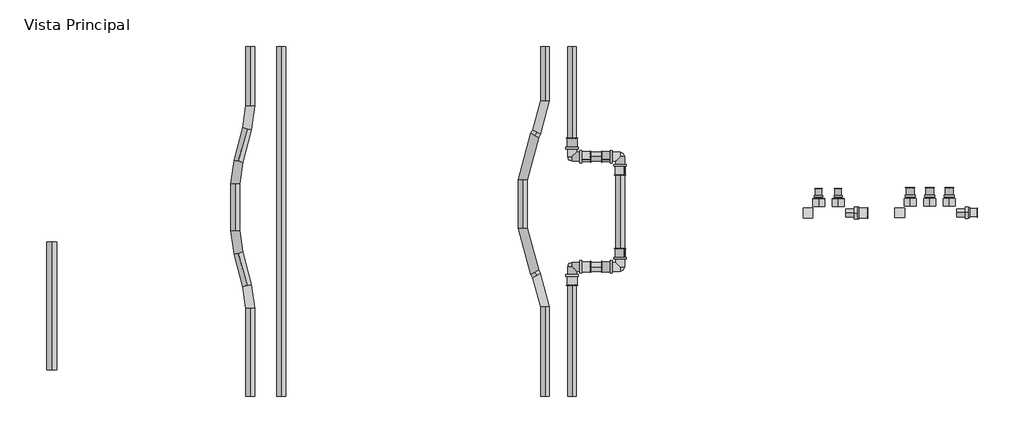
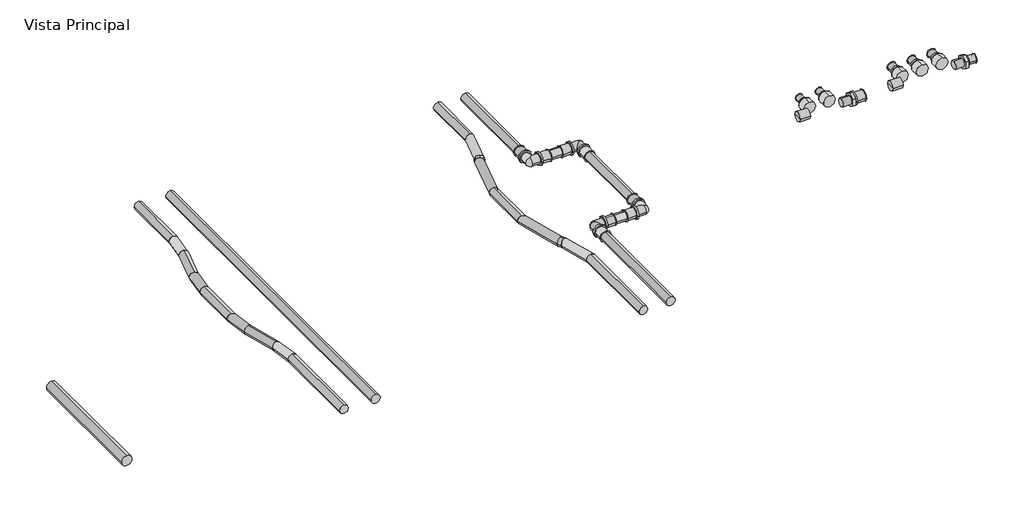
# One storey, incomplete: 36 pipe fittings, 17 pipe segments.
"""IFC4 building model written with IfcOpenShell, lengths in millimetres."""

from ifc_helpers import new_model, si_unit, point, frame, frame_2d, origin, place, context, project, spatial, circle_curve, trimmed, segment, composite_curve, outline, extrude, transform, mapped, element, save
from components import pipe_fitting_0048f4e8, k5_579bd2f6, pipe_fitting_518063be, pipe_fitting_5590baf3, pipe_fitting_c3ecb90c, azul_4665513f, rojo_d383c2d2, rojo_f0028795, var_25c4f382, var_874b99da, var_47cb32f1, var_bb96817c

model = new_model("IFC4")

# Units and contexts
model_context = context("Model", 3, world=origin())
ifc_project = project(units=[si_unit("LENGTHUNIT", "METRE", prefix="MILLI")], contexts=[model_context])

# Site, building, storey
site = spatial("IfcSite", under=ifc_project)
building = spatial("IfcBuilding", under=site)
storey = spatial("IfcBuildingStorey", under=building, Name="Vista Principal", Elevation=0.0)

# Pipe fittings
placement = place(None, origin())
pipe_fitting_shape = pipe_fitting_0048f4e8(model_context)
element("IfcPipeFitting", 1, ObjectType="AmancoWavin_Unionesdetubería_TigrisFlexZNoUsarCampana : Tigris K5", at=placement, inside=storey, context=model_context, shape_type="MappedRepresentation", body=[
    mapped(pipe_fitting_shape, transform((2938.024619, 1004.6157912, 0.0), x_axis=(0.0, -1.0, 0.0), y_axis=(1.0, 0.0, 0.0), z_axis=(0.0, 0.0, 1.0))),
])
element("IfcPipeFitting", 2, ObjectType="AmancoWavin_Unionesdetubería_TigrisFlexZNoUsarCampana : Tigris K5", at=placement, inside=storey, context=model_context, shape_type="MappedRepresentation", body=[
    mapped(pipe_fitting_shape, transform((2993.024619, 1004.6157912, 0.0), x_axis=(0.0, -1.0, 0.0), y_axis=(1.0, 0.0, 0.0), z_axis=(0.0, 0.0, 1.0))),
])
element("IfcPipeFitting", 3, ObjectType="AmancoWavin_Unionesdetubería_TigrisFlexZNoUsarCampana : Tigris K5", at=placement, inside=storey, context=model_context, shape_type="MappedRepresentation", body=[
    mapped(pipe_fitting_shape, transform((3048.024619, 1004.6157912, 0.0), x_axis=(0.0, -1.0, 0.0), y_axis=(1.0, 0.0, 0.0), z_axis=(0.0, 0.0, 1.0))),
])
element("IfcPipeFitting", 4, ObjectType="AmancoWavin_Unionesdetubería_TigrisFlexZNoUsarCampana : Tigris K5", at=placement, inside=storey, context=model_context, shape_type="MappedRepresentation", body=[
    mapped(pipe_fitting_shape, transform((3101.324619, 960.2157912, 0.0), x_axis=(-1.0, 0.0, 0.0), y_axis=(0.0, -1.0, 0.0), z_axis=(0.0, 0.0, 1.0))),
])
k5_shape = k5_579bd2f6(model_context)
element("IfcPipeFitting", 5, ObjectType="AmancoWavin_Unionesdetubería_TigrisFlexZNoUsarCampana : Tigris K5", at=placement, inside=storey, context=model_context, shape_type="MappedRepresentation", body=[
    mapped(k5_shape, transform((2788.8239674, 959.4178681, 0.0), x_axis=(-1.0, 0.0, 0.0), y_axis=(0.0, -1.0, 0.0), z_axis=(0.0, 0.0, 1.0))),
])
pipe_fitting_2_shape = pipe_fitting_518063be(model_context)
element("IfcPipeFitting", 6, ObjectType="AmancoWavin_Unionesdetubería_TigrisFlexZNoUsarConectorRosHembraManifold : Tigris K5", at=placement, inside=storey, context=model_context, shape_type="MappedRepresentation", body=[
    mapped(pipe_fitting_2_shape, transform((2680.5239674, 1001.3178681, 0.0), x_axis=(0.0, 1.0, 0.0), y_axis=(-1.0, 0.0, 0.0), z_axis=(0.0, 0.0, 1.0))),
])
element("IfcPipeFitting", 7, ObjectType="AmancoWavin_Unionesdetubería_TigrisFlexZNoUsarConectorRosHembraManifold : Tigris K5", at=placement, inside=storey, context=model_context, shape_type="MappedRepresentation", body=[
    mapped(pipe_fitting_2_shape, transform((2735.5239674, 1001.3178681, 0.0), x_axis=(0.0, 1.0, 0.0), y_axis=(-1.0, 0.0, 0.0), z_axis=(0.0, 0.0, 1.0))),
])
pipe_fitting_3_shape = pipe_fitting_5590baf3(model_context)
element("IfcPipeFitting", 8, ObjectType="AmancoWavin_Unionesdetubería_TigrisFlexZNoUsarConectorRosHembraManifold : Tigris K5", at=placement, inside=storey, context=model_context, shape_type="MappedRepresentation", body=[
    mapped(pipe_fitting_3_shape, transform((2938.024619, 1002.1157912, 0.0), x_axis=(0.0, 1.0, 0.0), y_axis=(-1.0, 0.0, 0.0), z_axis=(0.0, 0.0, 1.0))),
])
element("IfcPipeFitting", 9, ObjectType="AmancoWavin_Unionesdetubería_TigrisFlexZNoUsarConectorRosHembraManifold : Tigris K5", at=placement, inside=storey, context=model_context, shape_type="MappedRepresentation", body=[
    mapped(pipe_fitting_3_shape, transform((2993.024619, 1002.1157912, 0.0), x_axis=(0.0, 1.0, 0.0), y_axis=(-1.0, 0.0, 0.0), z_axis=(0.0, 0.0, 1.0))),
])
element("IfcPipeFitting", 10, ObjectType="AmancoWavin_Unionesdetubería_TigrisFlexZNoUsarConectorRosHembraManifold : Tigris K5", at=placement, inside=storey, context=model_context, shape_type="MappedRepresentation", body=[
    mapped(pipe_fitting_3_shape, transform((3048.024619, 1002.1157912, 0.0), x_axis=(0.0, 1.0, 0.0), y_axis=(-1.0, 0.0, 0.0), z_axis=(0.0, 0.0, 1.0))),
])
pipe_fitting_4_shape = pipe_fitting_c3ecb90c(model_context)
element("IfcPipeFitting", 11, ObjectType="AmancoWavin_Unionesdetubería_TigrisFlexZNoUsarCampana : Tigris K5", at=placement, inside=storey, context=model_context, shape_type="MappedRepresentation", body=[
    mapped(pipe_fitting_4_shape, transform((2680.5239674, 1003.8178681, 0.0), x_axis=(0.0, -1.0, 0.0), y_axis=(1.0, 0.0, 0.0), z_axis=(0.0, 0.0, 1.0))),
])
element("IfcPipeFitting", 12, ObjectType="AmancoWavin_Unionesdetubería_TigrisFlexZNoUsarCampana : Tigris K5", at=placement, inside=storey, context=model_context, shape_type="MappedRepresentation", body=[
    mapped(pipe_fitting_4_shape, transform((2735.5239674, 1003.8178681, 0.0), x_axis=(0.0, -1.0, 0.0), y_axis=(1.0, 0.0, 0.0), z_axis=(0.0, 0.0, 1.0))),
])
azul_shape = azul_4665513f(model_context)
element("IfcPipeFitting", 13, ObjectType="AmancoWavin_UnionesdeTubería_TigrisFlexTuberíaFlexible : Azul", at=placement, inside=storey, context=model_context, shape_type="MappedRepresentation", body=[
    mapped(azul_shape, transform((1082.9960417, 1228.0038708, 0.0), x_axis=(0.2588190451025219, 0.965925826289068, 0.0), y_axis=(-0.965925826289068, 0.2588190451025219, 0.0), z_axis=(0.0, 0.0, 1.0))),
])
element("IfcPipeFitting", 14, ObjectType="AmancoWavin_UnionesdeTubería_TigrisFlexTuberíaFlexible : Azul", at=placement, inside=storey, context=model_context, shape_type="MappedRepresentation", body=[
    mapped(azul_shape, transform((1041.5849945, 1073.4557386, 0.0), x_axis=(-0.25881904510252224, -0.965925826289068, 0.0), y_axis=(0.965925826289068, -0.25881904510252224, 0.0), z_axis=(0.0, 0.0, 1.0))),
])
element("IfcPipeFitting", 15, ObjectType="AmancoWavin_UnionesdeTubería_TigrisFlexTuberíaFlexible : Azul", at=placement, inside=storey, context=model_context, shape_type="MappedRepresentation", body=[
    mapped(azul_shape, transform((1041.5849945, 877.9987022, 0.0), x_axis=(0.0, -1.0, 0.0), y_axis=(1.0, 0.0, 0.0), z_axis=(0.0, 0.0, 1.0))),
])
element("IfcPipeFitting", 16, ObjectType="AmancoWavin_UnionesdeTubería_TigrisFlexTuberíaFlexible : Azul", at=placement, inside=storey, context=model_context, shape_type="MappedRepresentation", body=[
    mapped(azul_shape, transform((1082.9960417, 723.45057, 0.0), x_axis=(0.0, 1.0, 0.0), y_axis=(-1.0, 0.0, 0.0), z_axis=(0.0, 0.0, 1.0))),
])
element("IfcPipeFitting", 17, ObjectType="AmancoWavin_Unionesdetubería_TigrisFlexZNoUsarCampana : K5", at=placement, inside=storey, context=model_context, shape_type="MappedRepresentation", body=[
    mapped(k5_shape, transform((1987.7558771, 1140.0038708, 0.0), x_axis=(0.0, -1.0, 0.0), y_axis=(1.0, 0.0, 0.0), z_axis=(0.0, 0.0, 1.0))),
])
element("IfcPipeFitting", 18, ObjectType="AmancoWavin_Unionesdetubería_TigrisFlexZNoUsarCampana : K5", at=placement, inside=storey, context=model_context, shape_type="MappedRepresentation", body=[
    mapped(k5_shape, transform((2009.7558771, 1118.0038708, 0.0), x_axis=(-1.0, 0.0, 0.0), y_axis=(0.0, -1.0, 0.0), z_axis=(0.0, 0.0, 1.0))),
])
element("IfcPipeFitting", 19, ObjectType="AmancoWavin_Unionesdetubería_TigrisFlexZNoUsarCampana : K5", at=placement, inside=storey, context=model_context, shape_type="MappedRepresentation", body=[
    mapped(k5_shape, transform((2122.7558771, 1096.0038708, 0.0), x_axis=(0.0, 1.0, 0.0), y_axis=(-1.0, 0.0, 0.0), z_axis=(0.0, 0.0, 1.0))),
])
element("IfcPipeFitting", 20, ObjectType="AmancoWavin_Unionesdetubería_TigrisFlexZNoUsarCampana : K5", at=placement, inside=storey, context=model_context, shape_type="MappedRepresentation", body=[
    mapped(k5_shape, transform((2100.7558771, 1118.0038708, 0.0), x_axis=(1.0, 0.0, 0.0), y_axis=(0.0, 1.0, 0.0), z_axis=(0.0, 0.0, 1.0))),
])
element("IfcPipeFitting", 21, ObjectType="AmancoWavin_Unionesdetubería_TigrisFlexZNoUsarCampana : K5", at=placement, inside=storey, context=model_context, shape_type="MappedRepresentation", body=[
    mapped(k5_shape, transform((2100.7558771, 808.0038708, 0.0), x_axis=(1.0, 0.0, 0.0), y_axis=(0.0, 1.0, 0.0), z_axis=(0.0, 0.0, 1.0))),
])
element("IfcPipeFitting", 22, ObjectType="AmancoWavin_Unionesdetubería_TigrisFlexZNoUsarCampana : K5", at=placement, inside=storey, context=model_context, shape_type="MappedRepresentation", body=[
    mapped(k5_shape, transform((2122.7558771, 830.0038708, 0.0), x_axis=(0.0, -1.0, 0.0), y_axis=(1.0, 0.0, 0.0), z_axis=(0.0, 0.0, 1.0))),
])
element("IfcPipeFitting", 23, ObjectType="AmancoWavin_Unionesdetubería_TigrisFlexZNoUsarCampana : K5", at=placement, inside=storey, context=model_context, shape_type="MappedRepresentation", body=[
    mapped(k5_shape, transform((2009.7558771, 808.0038708, 0.0), x_axis=(-1.0, 0.0, 0.0), y_axis=(0.0, -1.0, 0.0), z_axis=(0.0, 0.0, 1.0))),
])
element("IfcPipeFitting", 24, ObjectType="AmancoWavin_Unionesdetubería_TigrisFlexZNoUsarCampana : K5", at=placement, inside=storey, context=model_context, shape_type="MappedRepresentation", body=[
    mapped(k5_shape, transform((1987.7558771, 786.0038708, 0.0), x_axis=(0.0, 1.0, 0.0), y_axis=(-1.0, 0.0, 0.0), z_axis=(0.0, 0.0, 1.0))),
])
rojo_shape = rojo_d383c2d2(model_context)
element("IfcPipeFitting", 25, ObjectType="AmancoWavin_UnionesdeTubería_TigrisFlexTuberíaFlexible : Rojo", at=placement, inside=storey, context=model_context, shape_type="MappedRepresentation", body=[
    mapped(rojo_shape, transform((1849.3324376, 850.468663, 0.0), x_axis=(0.0, -1.0, 0.0), y_axis=(1.0, 0.0, 0.0), z_axis=(0.0, 0.0, 1.0))),
])
element("IfcPipeFitting", 26, ObjectType="AmancoWavin_UnionesdeTubería_TigrisFlexTuberíaFlexible : Rojo", at=placement, inside=storey, context=model_context, shape_type="MappedRepresentation", body=[
    mapped(rojo_shape, transform((1849.3324376, 1119.7506953, 0.0), x_axis=(-0.4999999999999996, -0.8660254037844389, 0.0), y_axis=(0.8660254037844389, -0.4999999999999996, 0.0), z_axis=(0.0, 0.0, 1.0))),
])
rojo_2_shape = rojo_f0028795(model_context)
element("IfcPipeFitting", 27, ObjectType="AmancoWavin_UnionesdeTubería_TigrisFlexTuberíaFlexible : Rojo", at=placement, inside=storey, context=model_context, shape_type="MappedRepresentation", body=[
    mapped(rojo_2_shape, transform((1911.8324376, 742.2154876, 0.0), x_axis=(0.0, 1.0, 0.0), y_axis=(-1.0, 0.0, 0.0), z_axis=(0.0, 0.0, 1.0))),
])
element("IfcPipeFitting", 28, ObjectType="AmancoWavin_UnionesdeTubería_TigrisFlexTuberíaFlexible : Rojo", at=placement, inside=storey, context=model_context, shape_type="MappedRepresentation", body=[
    mapped(rojo_2_shape, transform((1911.8324376, 1228.0038708, 0.0), x_axis=(0.49999999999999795, 0.8660254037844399, 0.0), y_axis=(-0.8660254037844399, 0.49999999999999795, 0.0), z_axis=(0.0, 0.0, 1.0))),
])
var_shape = var_25c4f382(model_context)
element("IfcPipeFitting", 29, ObjectType="AmancoWavin_Unionesdetubería_TigrisFlexZNoUsarTapaHembraManifold : Var.", at=placement, inside=storey, context=model_context, shape_type="MappedRepresentation", body=[
    mapped(var_shape, transform((2644.5239674, 959.4178681, 0.0), x_axis=(-1.0, 0.0, 0.0), y_axis=(0.0, -1.0, 0.0), z_axis=(0.0, 0.0, 1.0))),
])
element("IfcPipeFitting", 30, ObjectType="AmancoWavin_Unionesdetubería_TigrisFlexZNoUsarTapaHembraManifold : Var.", at=placement, inside=storey, context=model_context, shape_type="MappedRepresentation", body=[
    mapped(var_shape, transform((2902.024619, 960.2157912, 0.0), x_axis=(-1.0, 0.0, 0.0), y_axis=(0.0, -1.0, 0.0), z_axis=(0.0, 0.0, 1.0))),
])
var_2_shape = var_874b99da(model_context)
element("IfcPipeFitting", 31, ObjectType="AmancoWavin_Unionesdetubería_TigrisFlexZNoUsarRoscaMacho-MachoManifold(nested) : Var.", at=placement, inside=storey, context=model_context, shape_type="MappedRepresentation", body=[
    mapped(var_2_shape, transform((2819.0239674, 959.4178681, 0.0), x_axis=(1.0, 0.0, 0.0), y_axis=(0.0, 1.0, 0.0), z_axis=(0.0, 0.0, 1.0))),
])
var_3_shape = var_47cb32f1(model_context)
element("IfcPipeFitting", 32, ObjectType="AmancoWavin_Unionesdetubería_TigrisFlexZNoUsarRoscaMacho-MachoManifold(nested) : Var.", at=placement, inside=storey, context=model_context, shape_type="MappedRepresentation", body=[
    mapped(var_3_shape, transform((3127.524619, 960.2157912, 0.0), x_axis=(1.0, 0.0, 0.0), y_axis=(0.0, 1.0, 0.0), z_axis=(0.0, 0.0, 1.0))),
])
var_4_shape = var_bb96817c(model_context)
element("IfcPipeFitting", 33, ObjectType="AmancoWavin_Unionesdetubería_TigrisFlexCodo : Var.", at=placement, inside=storey, context=model_context, shape_type="MappedRepresentation", body=[
    mapped(var_4_shape, transform((1987.7558771, 1118.0038708, 0.0), x_axis=(0.0, -1.0, 0.0), y_axis=(1.0, 0.0, 0.0), z_axis=(0.0, 0.0, 1.0))),
])
element("IfcPipeFitting", 34, ObjectType="AmancoWavin_Unionesdetubería_TigrisFlexCodo : Var.", at=placement, inside=storey, context=model_context, shape_type="MappedRepresentation", body=[
    mapped(var_4_shape, transform((2122.7558771, 1118.0038708, 0.0), x_axis=(0.0, 1.0, 0.0), y_axis=(-1.0, 0.0, 0.0), z_axis=(0.0, 0.0, 1.0))),
])
element("IfcPipeFitting", 35, ObjectType="AmancoWavin_Unionesdetubería_TigrisFlexCodo : Var.", at=placement, inside=storey, context=model_context, shape_type="MappedRepresentation", body=[
    mapped(var_4_shape, transform((2122.7558771, 808.0038708, 0.0), x_axis=(1.0, 0.0, 0.0), y_axis=(0.0, 1.0, 0.0), z_axis=(0.0, 0.0, 1.0))),
])
element("IfcPipeFitting", 36, ObjectType="AmancoWavin_Unionesdetubería_TigrisFlexCodo : Var.", at=placement, inside=storey, context=model_context, shape_type="MappedRepresentation", body=[
    mapped(var_4_shape, transform((1987.7558771, 808.0038708, 0.0), x_axis=(-1.0, 0.0, 0.0), y_axis=(0.0, -1.0, 0.0), z_axis=(0.0, 0.0, 1.0))),
])

# Pipe segments
element("IfcPipeSegment", 37, ObjectType="Tubo de Transición Universal", at=placement, inside=storey, context=model_context, shape_type="SweptSolid", body=[
    extrude(outline(composite_curve([segment(trimmed(circle_curve(frame_2d((0.0, 524.9354616)), 14.2875), [point((0.0, 510.6479616))], [point((-14.2875, 524.9354616))], False, "CARTESIAN"), True, "CONTINUOUS"), segment(trimmed(circle_curve(frame_2d((0.0, 524.9354616)), 14.2875), [point((-14.2875, 524.9354616))], [point((0.0, 539.2229616))], False, "CARTESIAN"), True, "CONTINUOUS"), segment(trimmed(circle_curve(frame_2d((0.0, 524.9354616)), 14.2875), [point((0.0, 539.2229616))], [point((14.2875, 524.9354616))], False, "CARTESIAN"), True, "CONTINUOUS"), segment(trimmed(circle_curve(frame_2d((0.0, 524.9354616)), 14.2875), [point((14.2875, 524.9354616))], [point((0.0, 510.6479616))], False, "CARTESIAN"), True, "CONTINUOUS")], self_intersect=False)), frame((0.0, 517.9987022, 0.0), z_axis=(0.0, 1.0, 0.0), x_axis=(0.0, 0.0, 1.0)), (0.0, 0.0, 1.0), 360.0),
])
element("IfcPipeSegment", 38, ObjectType="AmancoWavin_TuberíasFlexibles_TIGRISFLEXAzul 16-32 mm (50 mts-100 mts)", at=placement, inside=storey, context=model_context, shape_type="SweptSolid", body=[
    extrude(outline(composite_curve([segment(trimmed(circle_curve(frame_2d((0.0, 1082.9960417)), 12.5), [point((0.0, 1070.4960417))], [point((-12.5, 1082.9960417))], False, "CARTESIAN"), True, "CONTINUOUS"), segment(trimmed(circle_curve(frame_2d((0.0, 1082.9960417)), 12.5), [point((-12.5, 1082.9960417))], [point((0.0, 1095.4960417))], False, "CARTESIAN"), True, "CONTINUOUS"), segment(trimmed(circle_curve(frame_2d((0.0, 1082.9960417)), 12.5), [point((0.0, 1095.4960417))], [point((12.5, 1082.9960417))], False, "CARTESIAN"), True, "CONTINUOUS"), segment(trimmed(circle_curve(frame_2d((0.0, 1082.9960417)), 12.5), [point((12.5, 1082.9960417))], [point((0.0, 1070.4960417))], False, "CARTESIAN"), True, "CONTINUOUS")], self_intersect=False)), frame((0.0, 1260.9169952, 0.0), z_axis=(0.0, 1.0, 0.0), x_axis=(0.0, 0.0, 1.0)), (0.0, 0.0, 1.0), 167.0868756),
])
element("IfcPipeSegment", 39, ObjectType="AmancoWavin_TuberíasFlexibles_TIGRISFLEXAzul 16-32 mm (50 mts-100 mts)", at=placement, inside=storey, context=model_context, shape_type="SweptSolid", body=[
    extrude(outline(composite_curve([segment(trimmed(circle_curve(frame_2d((0.0, -12.5)), 12.5), [point((-12.5, -12.5))], [point((0.0, 0.0))], False, "CARTESIAN"), True, "CONTINUOUS"), segment(trimmed(circle_curve(frame_2d((0.0, -12.5)), 12.5), [point((0.0, 0.0))], [point((12.5, -12.5))], False, "CARTESIAN"), True, "CONTINUOUS"), segment(trimmed(circle_curve(frame_2d((0.0, -12.5)), 12.5), [point((12.5, -12.5))], [point((0.0, -25.0))], False, "CARTESIAN"), True, "CONTINUOUS"), segment(trimmed(circle_curve(frame_2d((0.0, -12.5)), 12.5), [point((0.0, -25.0))], [point((-12.5, -12.5))], False, "CARTESIAN"), True, "CONTINUOUS")], self_intersect=False)), frame((1050.1035379, 1105.2473755, -12.5), z_axis=(0.25881904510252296, 0.9659258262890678, 0.0), x_axis=(0.9659258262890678, -0.25881904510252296, 0.0)), (0.0, 0.0, 1.0), 94.1737512),
])
element("IfcPipeSegment", 40, ObjectType="AmancoWavin_TuberíasFlexibles_TIGRISFLEXAzul 16-32 mm (50 mts-100 mts)", at=placement, inside=storey, context=model_context, shape_type="SweptSolid", body=[
    extrude(outline(composite_curve([segment(trimmed(circle_curve(frame_2d((0.0, 1041.5849945)), 12.5), [point((0.0, 1029.0849945))], [point((-12.5, 1041.5849945))], False, "CARTESIAN"), True, "CONTINUOUS"), segment(trimmed(circle_curve(frame_2d((0.0, 1041.5849945)), 12.5), [point((-12.5, 1041.5849945))], [point((0.0, 1054.0849945))], False, "CARTESIAN"), True, "CONTINUOUS"), segment(trimmed(circle_curve(frame_2d((0.0, 1041.5849945)), 12.5), [point((0.0, 1054.0849945))], [point((12.5, 1041.5849945))], False, "CARTESIAN"), True, "CONTINUOUS"), segment(trimmed(circle_curve(frame_2d((0.0, 1041.5849945)), 12.5), [point((12.5, 1041.5849945))], [point((0.0, 1029.0849945))], False, "CARTESIAN"), True, "CONTINUOUS")], self_intersect=False)), frame((0.0, 910.9118266, 0.0), z_axis=(0.0, 1.0, 0.0), x_axis=(0.0, 0.0, 1.0)), (0.0, 0.0, 1.0), 129.6307876),
])
element("IfcPipeSegment", 41, ObjectType="AmancoWavin_TuberíasFlexibles_TIGRISFLEXAzul 16-32 mm (50 mts-100 mts)", at=placement, inside=storey, context=model_context, shape_type="SweptSolid", body=[
    extrude(outline(composite_curve([segment(trimmed(circle_curve(frame_2d((0.0, -12.5)), 12.5), [point((-12.5000001, -12.5))], [point((0.0, 0.0))], False, "CARTESIAN"), True, "CONTINUOUS"), segment(trimmed(circle_curve(frame_2d((0.0, -12.5)), 12.5), [point((0.0, 0.0))], [point((12.5, -12.5))], False, "CARTESIAN"), True, "CONTINUOUS"), segment(trimmed(circle_curve(frame_2d((0.0, -12.5)), 12.5), [point((12.5, -12.5))], [point((0.0, -25.0))], False, "CARTESIAN"), True, "CONTINUOUS"), segment(trimmed(circle_curve(frame_2d((0.0, -12.5)), 12.5), [point((0.0, -25.0))], [point((-12.5000001, -12.5))], False, "CARTESIAN"), True, "CONTINUOUS")], self_intersect=False)), frame((1074.4774983, 755.2422069, -12.5), z_axis=(-0.2588190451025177, 0.9659258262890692, 0.0), x_axis=(0.9659258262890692, 0.2588190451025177, 0.0)), (0.0, 0.0, 1.0), 94.1737512),
])
element("IfcPipeSegment", 42, ObjectType="AmancoWavin_TuberíasFlexibles_TIGRISFLEXAzul 16-32 mm (50 mts-100 mts)", at=placement, inside=storey, context=model_context, shape_type="SweptSolid", body=[
    extrude(outline(composite_curve([segment(trimmed(circle_curve(frame_2d((0.0, 1082.9960417)), 12.5), [point((0.0, 1070.4960417))], [point((-12.5, 1082.9960417))], False, "CARTESIAN"), True, "CONTINUOUS"), segment(trimmed(circle_curve(frame_2d((0.0, 1082.9960417)), 12.5), [point((-12.5, 1082.9960417))], [point((0.0, 1095.4960417))], False, "CARTESIAN"), True, "CONTINUOUS"), segment(trimmed(circle_curve(frame_2d((0.0, 1082.9960417)), 12.5), [point((0.0, 1095.4960417))], [point((12.5, 1082.9960417))], False, "CARTESIAN"), True, "CONTINUOUS"), segment(trimmed(circle_curve(frame_2d((0.0, 1082.9960417)), 12.5), [point((12.5, 1082.9960417))], [point((0.0, 1070.4960417))], False, "CARTESIAN"), True, "CONTINUOUS")], self_intersect=False)), frame((0.0, 443.45057, 0.0), z_axis=(0.0, 1.0, 0.0), x_axis=(0.0, 0.0, 1.0)), (0.0, 0.0, 1.0), 247.0868756),
])
element("IfcPipeSegment", 43, ObjectType="AmancoWavin_TuberíasFlexibles_TIGRISFLEXAzul 16-32 mm (50 mts-100 mts)", at=placement, inside=storey, context=model_context, shape_type="SweptSolid", body=[
    extrude(outline(composite_curve([segment(trimmed(circle_curve(frame_2d((0.0, 1170.7407412)), 12.5), [point((0.0, 1158.2407412))], [point((-12.5, 1170.7407412))], False, "CARTESIAN"), True, "CONTINUOUS"), segment(trimmed(circle_curve(frame_2d((0.0, 1170.7407412)), 12.5), [point((-12.5, 1170.7407412))], [point((0.0, 1183.2407412))], False, "CARTESIAN"), True, "CONTINUOUS"), segment(trimmed(circle_curve(frame_2d((0.0, 1170.7407412)), 12.5), [point((0.0, 1183.2407412))], [point((12.5, 1170.7407412))], False, "CARTESIAN"), True, "CONTINUOUS"), segment(trimmed(circle_curve(frame_2d((0.0, 1170.7407412)), 12.5), [point((12.5, 1170.7407412))], [point((0.0, 1158.2407412))], False, "CARTESIAN"), True, "CONTINUOUS")], self_intersect=False)), frame((0.0, 443.45057, 0.0), z_axis=(0.0, 1.0, 0.0), x_axis=(0.0, 0.0, 1.0)), (0.0, 0.0, 1.0), 984.5533008),
])
element("IfcPipeSegment", 44, ObjectType="AmancoWavin_TuberíasFlexibles_TIGRISFLEXRojo 16-32 mm (50 mts-100 mts)", at=placement, inside=storey, context=model_context, shape_type="SweptSolid", body=[
    extrude(outline(composite_curve([segment(trimmed(circle_curve(frame_2d((0.0, 1987.7558771)), 12.5), [point((0.0, 1975.2558771))], [point((-12.5, 1987.7558771))], False, "CARTESIAN"), True, "CONTINUOUS"), segment(trimmed(circle_curve(frame_2d((0.0, 1987.7558771)), 12.5), [point((-12.5, 1987.7558771))], [point((0.0, 2000.2558771))], False, "CARTESIAN"), True, "CONTINUOUS"), segment(trimmed(circle_curve(frame_2d((0.0, 1987.7558771)), 12.5), [point((0.0, 2000.2558771))], [point((12.5, 1987.7558771))], False, "CARTESIAN"), True, "CONTINUOUS"), segment(trimmed(circle_curve(frame_2d((0.0, 1987.7558771)), 12.5), [point((12.5, 1987.7558771))], [point((0.0, 1975.2558771))], False, "CARTESIAN"), True, "CONTINUOUS")], self_intersect=False)), frame((0.0, 1140.0038708, 0.0), z_axis=(0.0, 1.0, 0.0), x_axis=(0.0, 0.0, 1.0)), (0.0, 0.0, 1.0), 288.0),
])
element("IfcPipeSegment", 45, ObjectType="AmancoWavin_TuberíasFlexibles_TIGRISFLEXRojo 16-32 mm (50 mts-100 mts)", at=placement, inside=storey, context=model_context, shape_type="SweptSolid", body=[
    extrude(outline(composite_curve([segment(trimmed(circle_curve(frame_2d((1118.0038708, 0.0)), 12.5), [point((1105.5038708, 0.0))], [point((1118.0038708, 12.5))], False, "CARTESIAN"), True, "CONTINUOUS"), segment(trimmed(circle_curve(frame_2d((1118.0038708, 0.0)), 12.5), [point((1118.0038708, 12.5))], [point((1130.5038708, 0.0))], False, "CARTESIAN"), True, "CONTINUOUS"), segment(trimmed(circle_curve(frame_2d((1118.0038708, 0.0)), 12.5), [point((1130.5038708, 0.0))], [point((1118.0038708, -12.5))], False, "CARTESIAN"), True, "CONTINUOUS"), segment(trimmed(circle_curve(frame_2d((1118.0038708, 0.0)), 12.5), [point((1118.0038708, -12.5))], [point((1105.5038708, 0.0))], False, "CARTESIAN"), True, "CONTINUOUS")], self_intersect=False)), frame((2009.7558771, 0.0, 0.0), z_axis=(1.0, 0.0, 0.0), x_axis=(0.0, 1.0, 0.0)), (0.0, 0.0, 1.0), 91.0),
])
element("IfcPipeSegment", 46, ObjectType="AmancoWavin_TuberíasFlexibles_TIGRISFLEXRojo 16-32 mm (50 mts-100 mts)", at=placement, inside=storey, context=model_context, shape_type="SweptSolid", body=[
    extrude(outline(composite_curve([segment(trimmed(circle_curve(frame_2d((0.0, 2122.7558771)), 12.5), [point((0.0, 2110.2558771))], [point((-12.5, 2122.7558771))], False, "CARTESIAN"), True, "CONTINUOUS"), segment(trimmed(circle_curve(frame_2d((0.0, 2122.7558771)), 12.5), [point((-12.5, 2122.7558771))], [point((0.0, 2135.2558771))], False, "CARTESIAN"), True, "CONTINUOUS"), segment(trimmed(circle_curve(frame_2d((0.0, 2122.7558771)), 12.5), [point((0.0, 2135.2558771))], [point((12.5, 2122.7558771))], False, "CARTESIAN"), True, "CONTINUOUS"), segment(trimmed(circle_curve(frame_2d((0.0, 2122.7558771)), 12.5), [point((12.5, 2122.7558771))], [point((0.0, 2110.2558771))], False, "CARTESIAN"), True, "CONTINUOUS")], self_intersect=False)), frame((0.0, 830.0038708, 0.0), z_axis=(0.0, 1.0, 0.0), x_axis=(0.0, 0.0, 1.0)), (0.0, 0.0, 1.0), 266.0),
])
element("IfcPipeSegment", 47, ObjectType="AmancoWavin_TuberíasFlexibles_TIGRISFLEXRojo 16-32 mm (50 mts-100 mts)", at=placement, inside=storey, context=model_context, shape_type="SweptSolid", body=[
    extrude(outline(composite_curve([segment(trimmed(circle_curve(frame_2d((808.0038708, 0.0)), 12.5), [point((820.5038708, 0.0))], [point((808.0038708, -12.5))], False, "CARTESIAN"), True, "CONTINUOUS"), segment(trimmed(circle_curve(frame_2d((808.0038708, 0.0)), 12.5), [point((808.0038708, -12.5))], [point((795.5038708, 0.0))], False, "CARTESIAN"), True, "CONTINUOUS"), segment(trimmed(circle_curve(frame_2d((808.0038708, 0.0)), 12.5), [point((795.5038708, 0.0))], [point((808.0038708, 12.5))], False, "CARTESIAN"), True, "CONTINUOUS"), segment(trimmed(circle_curve(frame_2d((808.0038708, 0.0)), 12.5), [point((808.0038708, 12.5))], [point((820.5038708, 0.0))], False, "CARTESIAN"), True, "CONTINUOUS")], self_intersect=False)), frame((2009.7558771, 0.0, 0.0), z_axis=(1.0, 0.0, 0.0), x_axis=(0.0, 1.0, 0.0)), (0.0, 0.0, 1.0), 91.0),
])
element("IfcPipeSegment", 48, ObjectType="AmancoWavin_TuberíasFlexibles_TIGRISFLEXRojo 16-32 mm (50 mts-100 mts)", at=placement, inside=storey, context=model_context, shape_type="SweptSolid", body=[
    extrude(outline(composite_curve([segment(trimmed(circle_curve(frame_2d((0.0, 1987.7558771)), 12.5), [point((0.0, 1975.2558771))], [point((-12.5, 1987.7558771))], False, "CARTESIAN"), True, "CONTINUOUS"), segment(trimmed(circle_curve(frame_2d((0.0, 1987.7558771)), 12.5), [point((-12.5, 1987.7558771))], [point((0.0, 2000.2558771))], False, "CARTESIAN"), True, "CONTINUOUS"), segment(trimmed(circle_curve(frame_2d((0.0, 1987.7558771)), 12.5), [point((0.0, 2000.2558771))], [point((12.5, 1987.7558771))], False, "CARTESIAN"), True, "CONTINUOUS"), segment(trimmed(circle_curve(frame_2d((0.0, 1987.7558771)), 12.5), [point((12.5, 1987.7558771))], [point((0.0, 1975.2558771))], False, "CARTESIAN"), True, "CONTINUOUS")], self_intersect=False)), frame((0.0, 443.45057, 0.0), z_axis=(0.0, 1.0, 0.0), x_axis=(0.0, 0.0, 1.0)), (0.0, 0.0, 1.0), 342.5533008),
])
element("IfcPipeSegment", 49, ObjectType="AmancoWavin_TuberíasFlexibles_TIGRISFLEXRojo 16-32 mm (50 mts-100 mts)", at=placement, inside=storey, context=model_context, shape_type="SweptSolid", body=[
    extrude(outline(composite_curve([segment(trimmed(circle_curve(frame_2d((0.0, 1911.8324376)), 12.5), [point((0.0, 1899.3324376))], [point((-12.5, 1911.8324376))], False, "CARTESIAN"), True, "CONTINUOUS"), segment(trimmed(circle_curve(frame_2d((0.0, 1911.8324376)), 12.5), [point((-12.5, 1911.8324376))], [point((0.0, 1924.3324376))], False, "CARTESIAN"), True, "CONTINUOUS"), segment(trimmed(circle_curve(frame_2d((0.0, 1911.8324376)), 12.5), [point((0.0, 1924.3324376))], [point((12.5, 1911.8324376))], False, "CARTESIAN"), True, "CONTINUOUS"), segment(trimmed(circle_curve(frame_2d((0.0, 1911.8324376)), 12.5), [point((12.5, 1911.8324376))], [point((0.0, 1899.3324376))], False, "CARTESIAN"), True, "CONTINUOUS")], self_intersect=False)), frame((0.0, 1275.5916474, 0.0), z_axis=(0.0, 1.0, 0.0), x_axis=(0.0, 0.0, 1.0)), (0.0, 0.0, 1.0), 152.4122234),
])
element("IfcPipeSegment", 50, ObjectType="AmancoWavin_TuberíasFlexibles_TIGRISFLEXRojo 16-32 mm (50 mts-100 mts)", at=placement, inside=storey, context=model_context, shape_type="SweptSolid", body=[
    extrude(outline(composite_curve([segment(trimmed(circle_curve(frame_2d((0.0, -12.5)), 12.5), [point((-12.5, -12.5))], [point((0.0, 0.0))], False, "CARTESIAN"), True, "CONTINUOUS"), segment(trimmed(circle_curve(frame_2d((0.0, -12.5)), 12.5), [point((0.0, 0.0))], [point((12.5, -12.5))], False, "CARTESIAN"), True, "CONTINUOUS"), segment(trimmed(circle_curve(frame_2d((0.0, -12.5)), 12.5), [point((12.5, -12.5))], [point((0.0, -25.0))], False, "CARTESIAN"), True, "CONTINUOUS"), segment(trimmed(circle_curve(frame_2d((0.0, -12.5)), 12.5), [point((0.0, -25.0))], [point((-12.5, -12.5))], False, "CARTESIAN"), True, "CONTINUOUS")], self_intersect=False)), frame((1882.8260866, 1177.7633972, -12.5), z_axis=(0.5000000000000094, 0.8660254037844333, 0.0), x_axis=(0.8660254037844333, -0.5000000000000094, 0.0)), (0.0, 0.0, 1.0), 10.4249253),
])
element("IfcPipeSegment", 51, ObjectType="AmancoWavin_TuberíasFlexibles_TIGRISFLEXRojo 16-32 mm (50 mts-100 mts)", at=placement, inside=storey, context=model_context, shape_type="SweptSolid", body=[
    extrude(outline(composite_curve([segment(trimmed(circle_curve(frame_2d((0.0, 1849.3324376)), 12.5), [point((0.0, 1836.8324376))], [point((-12.5, 1849.3324376))], False, "CARTESIAN"), True, "CONTINUOUS"), segment(trimmed(circle_curve(frame_2d((0.0, 1849.3324376)), 12.5), [point((-12.5, 1849.3324376))], [point((0.0, 1861.8324376))], False, "CARTESIAN"), True, "CONTINUOUS"), segment(trimmed(circle_curve(frame_2d((0.0, 1849.3324376)), 12.5), [point((0.0, 1861.8324376))], [point((12.5, 1849.3324376))], False, "CARTESIAN"), True, "CONTINUOUS"), segment(trimmed(circle_curve(frame_2d((0.0, 1849.3324376)), 12.5), [point((12.5, 1849.3324376))], [point((0.0, 1836.8324376))], False, "CARTESIAN"), True, "CONTINUOUS")], self_intersect=False)), frame((0.0, 917.4559611, 0.0), z_axis=(0.0, 1.0, 0.0), x_axis=(0.0, 0.0, 1.0)), (0.0, 0.0, 1.0), 135.3074361),
])
element("IfcPipeSegment", 52, ObjectType="AmancoWavin_TuberíasFlexibles_TIGRISFLEXRojo 16-32 mm (50 mts-100 mts)", at=placement, inside=storey, context=model_context, shape_type="SweptSolid", body=[
    extrude(outline(composite_curve([segment(trimmed(circle_curve(frame_2d((0.0, -12.5)), 12.5), [point((-12.5, -12.5))], [point((0.0, 0.0))], False, "CARTESIAN"), True, "CONTINUOUS"), segment(trimmed(circle_curve(frame_2d((0.0, -12.5)), 12.5), [point((0.0, 0.0))], [point((12.5, -12.5))], False, "CARTESIAN"), True, "CONTINUOUS"), segment(trimmed(circle_curve(frame_2d((0.0, -12.5)), 12.5), [point((12.5, -12.5))], [point((0.0, -25.0))], False, "CARTESIAN"), True, "CONTINUOUS"), segment(trimmed(circle_curve(frame_2d((0.0, -12.5)), 12.5), [point((0.0, -25.0))], [point((-12.5, -12.5))], False, "CARTESIAN"), True, "CONTINUOUS")], self_intersect=False)), frame((1888.0385493, 783.427711, -12.5), z_axis=(-0.49999999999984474, 0.8660254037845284, 0.0), x_axis=(0.8660254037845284, 0.49999999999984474, 0.0)), (0.0, 0.0, 1.0), 10.4249253),
])
element("IfcPipeSegment", 53, ObjectType="AmancoWavin_TuberíasFlexibles_TIGRISFLEXRojo 16-32 mm (50 mts-100 mts)", at=placement, inside=storey, context=model_context, shape_type="SweptSolid", body=[
    extrude(outline(composite_curve([segment(trimmed(circle_curve(frame_2d((0.0, 1911.8324376)), 12.5), [point((0.0, 1899.3324376))], [point((-12.5, 1911.8324376))], False, "CARTESIAN"), True, "CONTINUOUS"), segment(trimmed(circle_curve(frame_2d((0.0, 1911.8324376)), 12.5), [point((-12.5, 1911.8324376))], [point((0.0, 1924.3324376))], False, "CARTESIAN"), True, "CONTINUOUS"), segment(trimmed(circle_curve(frame_2d((0.0, 1911.8324376)), 12.5), [point((0.0, 1924.3324376))], [point((12.5, 1911.8324376))], False, "CARTESIAN"), True, "CONTINUOUS"), segment(trimmed(circle_curve(frame_2d((0.0, 1911.8324376)), 12.5), [point((12.5, 1911.8324376))], [point((0.0, 1899.3324376))], False, "CARTESIAN"), True, "CONTINUOUS")], self_intersect=False)), frame((0.0, 443.45057, 0.0), z_axis=(0.0, 1.0, 0.0), x_axis=(0.0, 0.0, 1.0)), (0.0, 0.0, 1.0), 251.177141),
])

save(model, "model.ifc")
